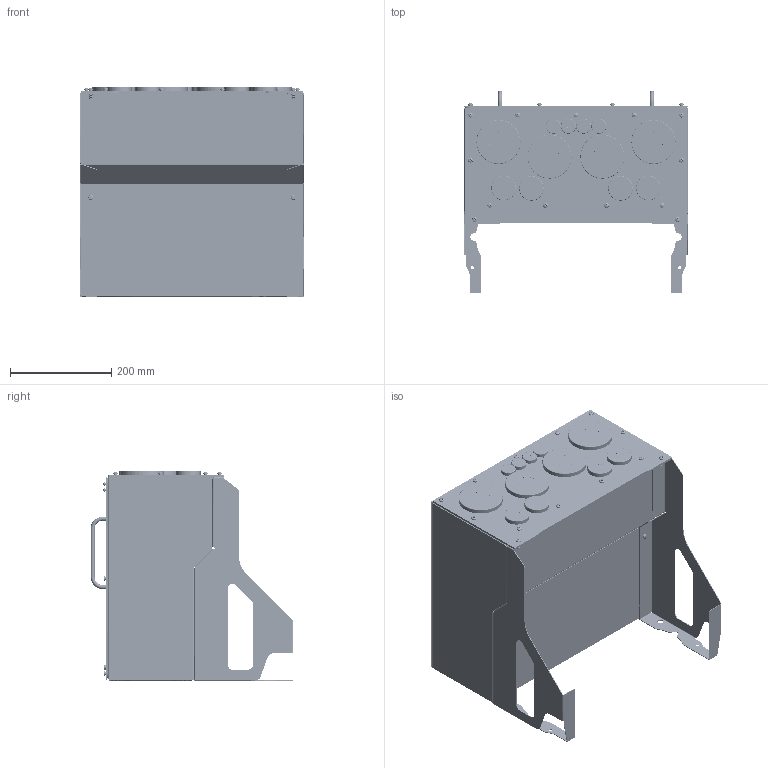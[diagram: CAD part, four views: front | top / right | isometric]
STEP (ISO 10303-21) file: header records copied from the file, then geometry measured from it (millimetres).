
FILE_DESCRIPTION (( 'STEP AP203' ), '1' );
FILE_NAME ('P2.IP55.SIZE8-GlandBox (ENVELOPE).STEP', '2022-03-16T10:39:42', ( '' ), ( '' ), 'SwSTEP 2.0', 'SolidWorks 2021', '' );
FILE_SCHEMA (( 'CONFIG_CONTROL_DESIGN' ));
Products named in the file (1): P2.IP55.SIZE8-GlandBox (ENVELOPE)
Bounding box: 444 x 400.15 x 414.8 mm (x, y, z)
Surface area: 1327626.1 mm2
Topology: 22 solids, 23 shells, 4616 faces, 12126 edges, 7594 vertices
Faces by surface type: cone 1768, cylinder 1368, plane 920, torus 376, bspline 138, sphere 46
Entity records: 182989 total; most frequent: CARTESIAN_POINT 71896, ORIENTED_EDGE 24160, DIRECTION 23204, EDGE_CURVE 12080, AXIS2_PLACEMENT_3D 9830, VERTEX_POINT 7596, CIRCLE 5351, EDGE_LOOP 4812
